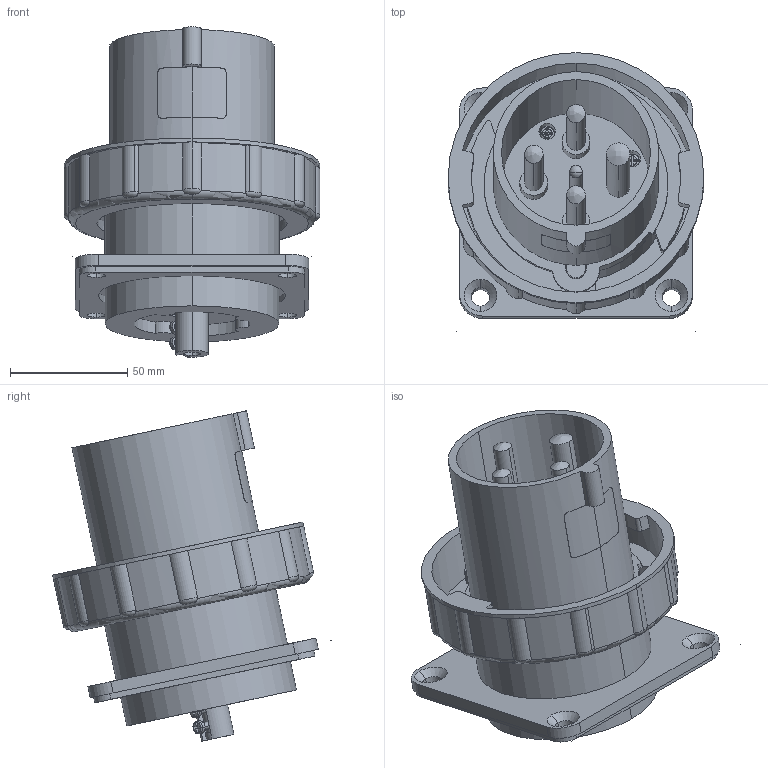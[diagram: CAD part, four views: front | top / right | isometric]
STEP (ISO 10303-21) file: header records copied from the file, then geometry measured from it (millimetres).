
FILE_DESCRIPTION (( 'STEP AP203' ), '1' );
FILE_NAME ('TLL63642.STEP', '2018-10-24T19:03:49', ( '' ), ( '' ), 'SwSTEP 2.0', 'SolidWorks 2012', '' );
FILE_SCHEMA (( 'CONFIG_CONTROL_DESIGN' ));
Length unit declared in the file: millimetre
Products named in the file (1): TLL63642
Bounding box: 109.1 x 118.9 x 140.92 mm (x, y, z)
Volume: 374933.6 mm3; surface area: 102777.7 mm2
Topology: 3 solids, 3 shells, 408 faces, 1050 edges, 686 vertices
Faces by surface type: plane 205, cylinder 160, torus 29, cone 8, bspline 4, sphere 2
Entity records: 13811 total; most frequent: CARTESIAN_POINT 3635, DIRECTION 2150, ORIENTED_EDGE 2100, EDGE_CURVE 1050, AXIS2_PLACEMENT_3D 827, VERTEX_POINT 686, LINE 496, VECTOR 496
